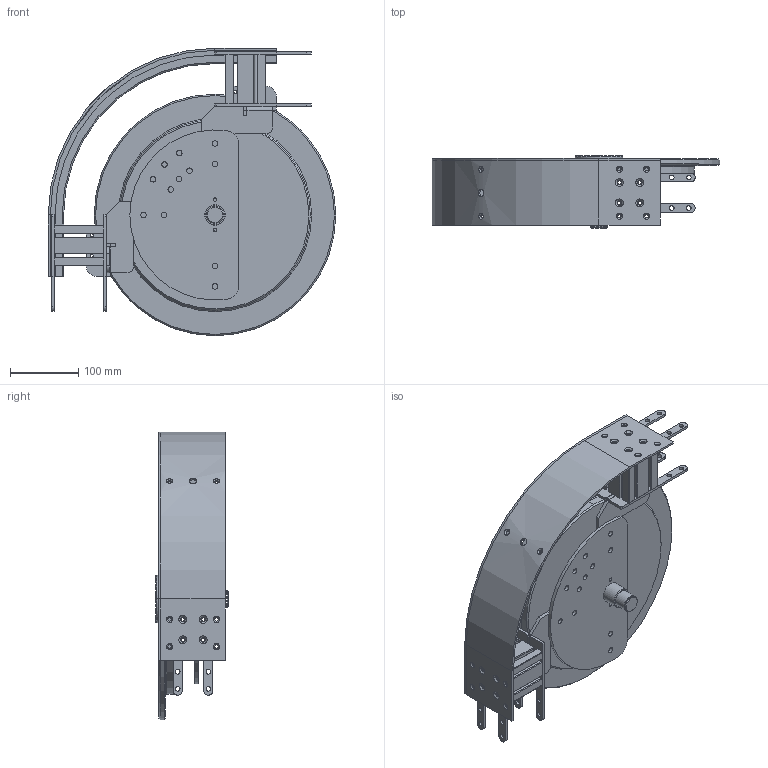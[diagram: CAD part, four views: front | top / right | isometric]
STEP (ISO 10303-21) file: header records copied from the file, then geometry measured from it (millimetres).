
FILE_DESCRIPTION (( 'STEP AP203' ), '1' );
FILE_NAME ('2000.325.690.STEP', '2017-03-20T15:47:52', ( 'Localadmin' ), ( 'Microsoft' ), 'SwSTEP 2.0', 'SolidWorks 2016', '' );
FILE_SCHEMA (( 'CONFIG_CONTROL_DESIGN' ));
Length unit declared in the file: millimetre
Products named in the file (1): 2000.325.690
Bounding box: 422.5 x 106 x 422.5 mm (x, y, z)
Surface area: 617841.5 mm2 (no closed solid volume)
Topology: 0 solids, 34 shells, 632 faces, 2152 edges, 1543 vertices
Faces by surface type: cylinder 294, plane 257, cone 68, bspline 10, torus 3
Entity records: 25697 total; most frequent: CARTESIAN_POINT 6369, DIRECTION 4193, ORIENTED_EDGE 3544, EDGE_CURVE 2152, VERTEX_POINT 1543, AXIS2_PLACEMENT_3D 1453, LINE 1287, VECTOR 1287
